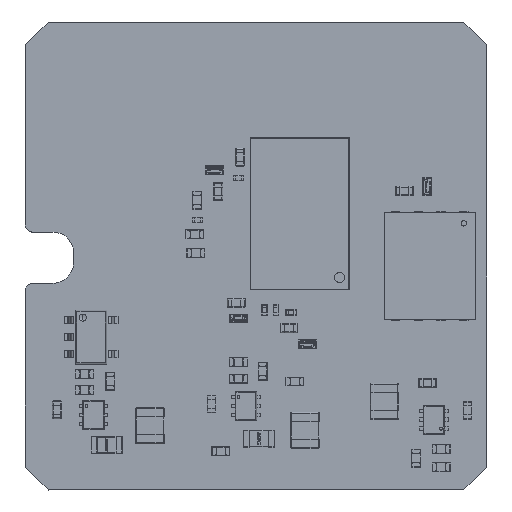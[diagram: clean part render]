
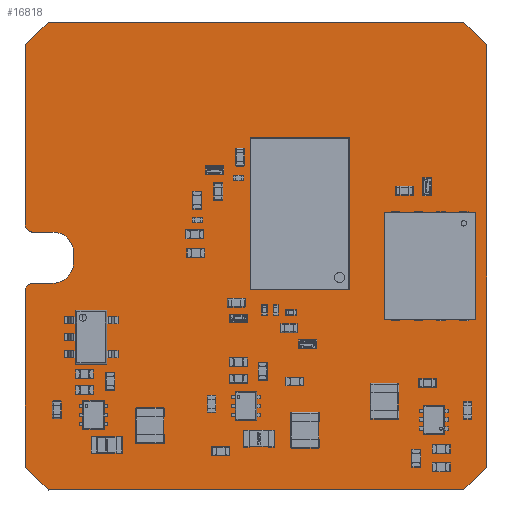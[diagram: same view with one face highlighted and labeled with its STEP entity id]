
A CAD part, top view. The second image highlights one B-rep face of the part: STEP entity #16818.
In plain terms, the highlighted planar face has unit normal (0, 0, 1).
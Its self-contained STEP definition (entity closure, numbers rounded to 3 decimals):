
#16297 = VERTEX_POINT('',#16298);
#16298 = CARTESIAN_POINT('',(0.,1.27,0.));
#16304 = EDGE_CURVE('',#16297,#16305,#16307,.T.);
#16305 = VERTEX_POINT('',#16306);
#16306 = CARTESIAN_POINT('',(0.,11.147,0.
    ));
#16307 = LINE('',#16308,#16309);
#16308 = CARTESIAN_POINT('',(0.,1.27,0.));
#16309 = VECTOR('',#16310,1.);
#16310 = DIRECTION('',(0.,1.,0.));
#16335 = EDGE_CURVE('',#16305,#16336,#16338,.T.);
#16336 = VERTEX_POINT('',#16337);
#16337 = CARTESIAN_POINT('',(0.41,11.557,0.));
#16338 = CIRCLE('',#16339,0.41);
#16339 = AXIS2_PLACEMENT_3D('',#16340,#16341,#16342);
#16340 = CARTESIAN_POINT('',(0.41,11.147,0.));
#16341 = DIRECTION('',(0.,0.,-1.));
#16342 = DIRECTION('',(-1.,-0.001,0.));
#16368 = EDGE_CURVE('',#16336,#16369,#16371,.T.);
#16369 = VERTEX_POINT('',#16370);
#16370 = CARTESIAN_POINT('',(1.54,11.557,0.));
#16371 = LINE('',#16372,#16373);
#16372 = CARTESIAN_POINT('',(0.41,11.557,0.));
#16373 = VECTOR('',#16374,1.);
#16374 = DIRECTION('',(1.,0.,0.));
#16399 = EDGE_CURVE('',#16369,#16400,#16402,.T.);
#16400 = VERTEX_POINT('',#16401);
#16401 = CARTESIAN_POINT('',(2.7,12.717,0.));
#16402 = CIRCLE('',#16403,1.161);
#16403 = AXIS2_PLACEMENT_3D('',#16404,#16405,#16406);
#16404 = CARTESIAN_POINT('',(1.539,12.718,0.));
#16405 = DIRECTION('',(0.,0.,1.));
#16406 = DIRECTION('',(0.001,-1.,0.));
#16432 = EDGE_CURVE('',#16400,#16433,#16435,.T.);
#16433 = VERTEX_POINT('',#16434);
#16434 = CARTESIAN_POINT('',(2.7,13.257,0.));
#16435 = LINE('',#16436,#16437);
#16436 = CARTESIAN_POINT('',(2.7,12.717,0.));
#16437 = VECTOR('',#16438,1.);
#16438 = DIRECTION('',(0.,1.,0.));
#16463 = EDGE_CURVE('',#16433,#16464,#16466,.T.);
#16464 = VERTEX_POINT('',#16465);
#16465 = CARTESIAN_POINT('',(1.54,14.417,0.));
#16466 = CIRCLE('',#16467,1.161);
#16467 = AXIS2_PLACEMENT_3D('',#16468,#16469,#16470);
#16468 = CARTESIAN_POINT('',(1.539,13.256,0.));
#16469 = DIRECTION('',(0.,0.,1.));
#16470 = DIRECTION('',(1.,0.001,0.));
#16496 = EDGE_CURVE('',#16464,#16497,#16499,.T.);
#16497 = VERTEX_POINT('',#16498);
#16498 = CARTESIAN_POINT('',(0.41,14.417,0.));
#16499 = LINE('',#16500,#16501);
#16500 = CARTESIAN_POINT('',(1.54,14.417,0.));
#16501 = VECTOR('',#16502,1.);
#16502 = DIRECTION('',(-1.,0.,0.));
#16527 = EDGE_CURVE('',#16497,#16528,#16530,.T.);
#16528 = VERTEX_POINT('',#16529);
#16529 = CARTESIAN_POINT('',(0.,14.827,0.
    ));
#16530 = CIRCLE('',#16531,0.41);
#16531 = AXIS2_PLACEMENT_3D('',#16532,#16533,#16534);
#16532 = CARTESIAN_POINT('',(0.41,14.827,0.));
#16533 = DIRECTION('',(0.,0.,-1.));
#16534 = DIRECTION('',(0.001,-1.,0.));
#16560 = EDGE_CURVE('',#16528,#16561,#16563,.T.);
#16561 = VERTEX_POINT('',#16562);
#16562 = CARTESIAN_POINT('',(0.,24.892,0.));
#16563 = LINE('',#16564,#16565);
#16564 = CARTESIAN_POINT('',(0.,14.827,0.));
#16565 = VECTOR('',#16566,1.);
#16566 = DIRECTION('',(0.,1.,0.));
#16591 = EDGE_CURVE('',#16561,#16592,#16594,.T.);
#16592 = VERTEX_POINT('',#16593);
#16593 = CARTESIAN_POINT('',(1.27,26.162,0.));
#16594 = LINE('',#16595,#16596);
#16595 = CARTESIAN_POINT('',(0.,24.892,0.));
#16596 = VECTOR('',#16597,1.);
#16597 = DIRECTION('',(0.707,0.707,0.));
#16622 = EDGE_CURVE('',#16592,#16623,#16625,.T.);
#16623 = VERTEX_POINT('',#16624);
#16624 = CARTESIAN_POINT('',(24.511,26.162,0.));
#16625 = LINE('',#16626,#16627);
#16626 = CARTESIAN_POINT('',(1.27,26.162,0.));
#16627 = VECTOR('',#16628,1.);
#16628 = DIRECTION('',(1.,0.,0.));
#16653 = EDGE_CURVE('',#16623,#16654,#16656,.T.);
#16654 = VERTEX_POINT('',#16655);
#16655 = CARTESIAN_POINT('',(25.781,24.892,0.));
#16656 = LINE('',#16657,#16658);
#16657 = CARTESIAN_POINT('',(24.511,26.162,0.));
#16658 = VECTOR('',#16659,1.);
#16659 = DIRECTION('',(0.707,-0.707,0.));
#16684 = EDGE_CURVE('',#16654,#16685,#16687,.T.);
#16685 = VERTEX_POINT('',#16686);
#16686 = CARTESIAN_POINT('',(25.781,1.27,0.));
#16687 = LINE('',#16688,#16689);
#16688 = CARTESIAN_POINT('',(25.781,24.892,0.));
#16689 = VECTOR('',#16690,1.);
#16690 = DIRECTION('',(0.,-1.,0.));
#16715 = EDGE_CURVE('',#16685,#16716,#16718,.T.);
#16716 = VERTEX_POINT('',#16717);
#16717 = CARTESIAN_POINT('',(24.511,0.,0.));
#16718 = LINE('',#16719,#16720);
#16719 = CARTESIAN_POINT('',(25.781,1.27,0.));
#16720 = VECTOR('',#16721,1.);
#16721 = DIRECTION('',(-0.707,-0.707,0.));
#16746 = EDGE_CURVE('',#16716,#16747,#16749,.T.);
#16747 = VERTEX_POINT('',#16748);
#16748 = CARTESIAN_POINT('',(1.271,-0.001,0.
    ));
#16749 = LINE('',#16750,#16751);
#16750 = CARTESIAN_POINT('',(24.511,0.,0.));
#16751 = VECTOR('',#16752,1.);
#16752 = DIRECTION('',(-1.,0.,0.));
#16777 = EDGE_CURVE('',#16747,#16297,#16778,.T.);
#16778 = LINE('',#16779,#16780);
#16779 = CARTESIAN_POINT('',(1.271,-0.001,0.
    ));
#16780 = VECTOR('',#16781,1.);
#16781 = DIRECTION('',(-0.707,0.707,0.));
#16818 = ADVANCED_FACE('',(#16819),#16837,.T.);
#16819 = FACE_BOUND('',#16820,.F.);
#16820 = EDGE_LOOP('',(#16821,#16822,#16823,#16824,#16825,#16826,#16827,
    #16828,#16829,#16830,#16831,#16832,#16833,#16834,#16835,#16836));
#16821 = ORIENTED_EDGE('',*,*,#16304,.T.);
#16822 = ORIENTED_EDGE('',*,*,#16335,.T.);
#16823 = ORIENTED_EDGE('',*,*,#16368,.T.);
#16824 = ORIENTED_EDGE('',*,*,#16399,.T.);
#16825 = ORIENTED_EDGE('',*,*,#16432,.T.);
#16826 = ORIENTED_EDGE('',*,*,#16463,.T.);
#16827 = ORIENTED_EDGE('',*,*,#16496,.T.);
#16828 = ORIENTED_EDGE('',*,*,#16527,.T.);
#16829 = ORIENTED_EDGE('',*,*,#16560,.T.);
#16830 = ORIENTED_EDGE('',*,*,#16591,.T.);
#16831 = ORIENTED_EDGE('',*,*,#16622,.T.);
#16832 = ORIENTED_EDGE('',*,*,#16653,.T.);
#16833 = ORIENTED_EDGE('',*,*,#16684,.T.);
#16834 = ORIENTED_EDGE('',*,*,#16715,.T.);
#16835 = ORIENTED_EDGE('',*,*,#16746,.T.);
#16836 = ORIENTED_EDGE('',*,*,#16777,.T.);
#16837 = PLANE('',#16838);
#16838 = AXIS2_PLACEMENT_3D('',#16839,#16840,#16841);
#16839 = CARTESIAN_POINT('',(0.,1.27,0.));
#16840 = DIRECTION('',(0.,0.,1.));
#16841 = DIRECTION('',(1.,0.,0.));
